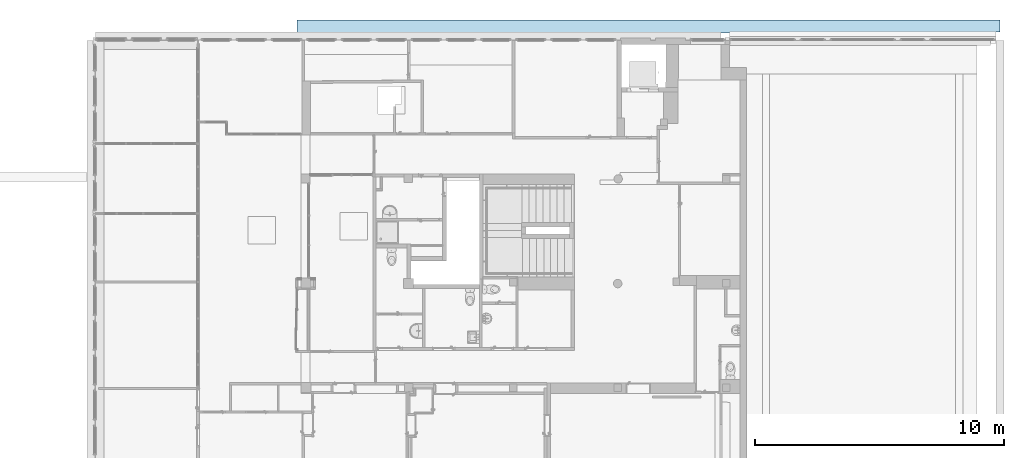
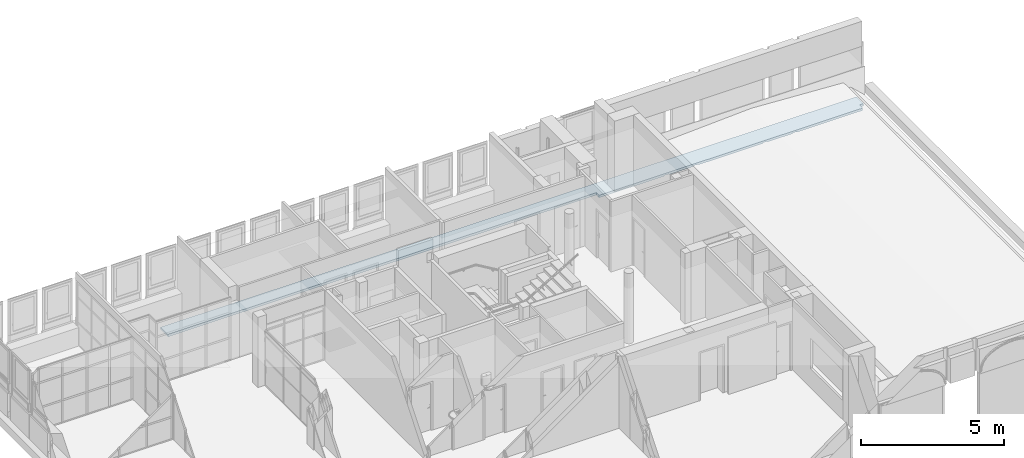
# One storey, part 53 of 97: 1 slab.
"""IFC4 building model written with IfcOpenShell, lengths in metres."""

from ifc_helpers import new_model, entity, si_unit, converted_unit, derived_unit, direction, frame, origin, place, context, subcontext, project, spatial, polygons, material, layer, layer_set, type_object, element, save


model = new_model("IFC4")

# Units and contexts
model_context = context("Model", 3, precision=1e-05, world=origin(), true_north=direction((6.12303176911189e-17, 1.0)))
body_context = subcontext(model_context, "Body", "Model", "MODEL_VIEW")
ifc_project = project(units=[si_unit("LENGTHUNIT", "METRE"), si_unit("AREAUNIT", "SQUARE_METRE"), si_unit("VOLUMEUNIT", "CUBIC_METRE"), converted_unit("PLANEANGLEUNIT", "DEGREE", entity("IfcRatioMeasure", 0.0174532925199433), si_unit("PLANEANGLEUNIT", "RADIAN"), dimensions=[0, 0, 0, 0, 0, 0, 0]), si_unit("MASSUNIT", "GRAM", prefix="KILO"), derived_unit("MASSDENSITYUNIT", [(si_unit("MASSUNIT", "GRAM", prefix="KILO"), 1), (si_unit("LENGTHUNIT", "METRE"), -3)]), derived_unit("MOMENTOFINERTIAUNIT", [(si_unit("LENGTHUNIT", "METRE"), 4)]), si_unit("TIMEUNIT", "SECOND"), si_unit("FREQUENCYUNIT", "HERTZ"), si_unit("THERMODYNAMICTEMPERATUREUNIT", "DEGREE_CELSIUS"), derived_unit("THERMALTRANSMITTANCEUNIT", [(si_unit("MASSUNIT", "GRAM", prefix="KILO"), 1), (si_unit("THERMODYNAMICTEMPERATUREUNIT", "KELVIN"), -1), (si_unit("TIMEUNIT", "SECOND"), -3)]), derived_unit("VOLUMETRICFLOWRATEUNIT", [(si_unit("LENGTHUNIT", "METRE"), 3), (si_unit("TIMEUNIT", "SECOND"), -1)]), si_unit("ELECTRICCURRENTUNIT", "AMPERE"), si_unit("ELECTRICVOLTAGEUNIT", "VOLT"), si_unit("POWERUNIT", "WATT"), si_unit("FORCEUNIT", "NEWTON", prefix="KILO"), si_unit("ILLUMINANCEUNIT", "LUX"), si_unit("LUMINOUSFLUXUNIT", "LUMEN"), si_unit("LUMINOUSINTENSITYUNIT", "CANDELA"), derived_unit("USERDEFINED", [(si_unit("MASSUNIT", "GRAM", prefix="KILO"), -1), (si_unit("LENGTHUNIT", "METRE"), -2), (si_unit("TIMEUNIT", "SECOND"), 3), (si_unit("LUMINOUSFLUXUNIT", "LUMEN"), 1)]), derived_unit("LINEARVELOCITYUNIT", [(si_unit("LENGTHUNIT", "METRE"), 1), (si_unit("TIMEUNIT", "SECOND"), -1)]), si_unit("PRESSUREUNIT", "PASCAL"), derived_unit("USERDEFINED", [(si_unit("LENGTHUNIT", "METRE"), -2), (si_unit("MASSUNIT", "GRAM", prefix="KILO"), 1), (si_unit("TIMEUNIT", "SECOND"), -2)]), derived_unit("LINEARFORCEUNIT", [(si_unit("MASSUNIT", "GRAM", prefix="KILO"), 1), (si_unit("LENGTHUNIT", "METRE"), 1), (si_unit("TIMEUNIT", "SECOND"), -2), (si_unit("LENGTHUNIT", "METRE"), -1)]), derived_unit("PLANARFORCEUNIT", [(si_unit("MASSUNIT", "GRAM", prefix="KILO"), 1), (si_unit("LENGTHUNIT", "METRE"), 1), (si_unit("TIMEUNIT", "SECOND"), -2), (si_unit("LENGTHUNIT", "METRE"), -2)])], contexts=[model_context])

# Site, building, storey
site_placement = place(None, origin())
site = spatial("IfcSite", under=ifc_project, at=site_placement, Name="Default", CompositionType="ELEMENT")
building_placement = place(site_placement, origin())
building = spatial("IfcBuilding", under=site, at=building_placement, Name="HOTEL CONSULAIRE BOULOGNE SUR MER", CompositionType="ELEMENT")
storey_placement = place(building_placement, frame((0.0, 0.0, 3.62152697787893)))
storey = spatial("IfcBuildingStorey", under=building, at=storey_placement, Name="Niveau 1", CompositionType="ELEMENT", Elevation=3.62152697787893)

# Slab
ifc_material = material(Name="Béton, coulé sur place", Category="Béton")
ifc_layer = layer(ifc_material, 0.1, Name="Béton, coulé sur place", Category="Béton")
ifc_layer_set = layer_set([ifc_layer], Name="Sol:béton 100")
slab_type = type_object("IfcSlabType", Name="Sol:béton 100", PredefinedType="FLOOR", material=ifc_layer_set)
slab_placement = place(storey_placement, origin())
element("IfcSlab", 1, at=slab_placement, inside=storey, type_object=slab_type, material=ifc_layer_set, Name="Sol:béton 100", ObjectType="Sol:béton 100", PredefinedType="FLOOR", context=body_context, shape_type="Tessellation", body=[
    polygons([(-5.6960162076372, -9.26461225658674, -1.4175269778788), (22.4986382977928, -9.26461225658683, -1.4175269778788), (22.4986382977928, -9.74463235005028, -1.4175269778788), (22.3370193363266, -9.74463235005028, -1.4175269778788), (22.3370193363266, -9.97401737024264, -1.4175269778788), (19.6849823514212, -9.97401737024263, -1.4175269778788), (19.6507300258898, -9.7456685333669, -1.4175269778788), (19.5284300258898, -9.7456685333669, -1.4175269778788), (19.4941777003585, -9.97401737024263, -1.4175269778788), (18.4864568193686, -9.97401737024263, -1.4175269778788), (18.4522044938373, -9.7456685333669, -1.4175269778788), (18.3299044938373, -9.7456685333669, -1.4175269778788), (18.2956521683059, -9.97401737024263, -1.4175269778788), (15.6829475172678, -9.97401737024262, -1.4175269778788), (15.6486951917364, -9.74566853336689, -1.4175269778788), (15.5263951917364, -9.74566853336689, -1.4175269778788), (15.492142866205, -9.97401737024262, -1.4175269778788), (14.4884389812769, -9.97401737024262, -1.4175269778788), (14.4541866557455, -9.74566853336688, -1.4175269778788), (14.3318866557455, -9.74566853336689, -1.4175269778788), (14.2976343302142, -9.97401737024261, -1.4175269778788), (11.6611975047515, -9.9740173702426, -1.4175269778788), (11.6611975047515, -9.78032416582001, -1.4175269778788), (11.6466382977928, -9.78032416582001, -1.4175269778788), (11.3066382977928, -9.78032416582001, -1.4175269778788), (-1.17098066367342, -9.78032416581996, -1.4175269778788), (-1.51098066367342, -9.78032416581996, -1.4175269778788), (-5.16398066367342, -9.78032416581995, -1.4175269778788), (-5.50398066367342, -9.78032416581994, -1.4175269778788), (-5.6960162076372, -9.78032416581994, -1.4175269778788), (22.4986382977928, -9.26461225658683, -1.3175269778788), (-5.6960162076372, -9.26461225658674, -1.3175269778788), (-5.6960162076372, -9.78032416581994, -1.3175269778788), (-5.50398066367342, -9.78032416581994, -1.3175269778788), (-5.16398066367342, -9.78032416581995, -1.3175269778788), (-1.51098066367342, -9.78032416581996, -1.3175269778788), (-1.17098066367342, -9.78032416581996, -1.3175269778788), (11.3066382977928, -9.78032416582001, -1.3175269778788), (11.6466382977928, -9.78032416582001, -1.3175269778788), (11.6611975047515, -9.78032416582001, -1.3175269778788), (11.6611975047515, -9.9740173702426, -1.3175269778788), (22.3370193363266, -9.97401737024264, -1.3175269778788), (22.3370193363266, -9.74463235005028, -1.3175269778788), (22.4986382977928, -9.74463235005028, -1.3175269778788), (22.3370193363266, -9.97401737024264, -1.39), (14.2976343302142, -9.97401737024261, -1.39), (14.4884389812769, -9.97401737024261, -1.39), (15.492142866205, -9.97401737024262, -1.39), (15.6829475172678, -9.97401737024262, -1.39), (18.2956521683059, -9.97401737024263, -1.39), (18.4864568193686, -9.97401737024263, -1.39), (19.4941777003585, -9.97401737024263, -1.39), (19.6849823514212, -9.97401737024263, -1.39), (14.3318866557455, -9.74566853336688, -1.39), (14.4541866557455, -9.74566853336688, -1.39), (15.5263951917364, -9.74566853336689, -1.39), (15.6486951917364, -9.74566853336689, -1.39), (18.3299044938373, -9.7456685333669, -1.39), (18.4522044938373, -9.7456685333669, -1.39), (19.5284300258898, -9.7456685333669, -1.39), (19.6507300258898, -9.7456685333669, -1.39)], [[[1, 2, 3, 4, 5, 6, 7, 8, 9, 10, 11, 12, 13, 14, 15, 16, 17, 18, 19, 20, 21, 22, 23, 24, 25, 26, 27, 28, 29, 30]], [[46, 54, 55, 47]], [[48, 56, 57, 49]], [[50, 58, 59, 51]], [[52, 60, 61, 53]], [[31, 32, 33, 34, 35, 36, 37, 38, 39, 40, 41, 42, 43, 44]], [[2, 1, 32, 31]], [[3, 2, 31, 44]], [[5, 4, 43, 42, 45]], [[4, 3, 44, 43]], [[9, 52, 53, 6, 5, 45, 42, 41, 22, 21, 46, 47, 18, 17, 48, 49, 14, 13, 50, 51, 10]], [[25, 24, 23, 40, 39, 38, 37, 36, 35, 34, 33, 30, 29, 28, 27, 26]], [[19, 55, 54, 20]], [[16, 15, 57, 56]], [[11, 59, 58, 12]], [[8, 7, 61, 60]], [[23, 22, 41, 40]], [[1, 30, 33, 32]], [[20, 54, 46, 21]], [[16, 56, 48, 17]], [[12, 58, 50, 13]], [[8, 60, 52, 9]], [[19, 18, 47, 55]], [[15, 14, 49, 57]], [[11, 10, 51, 59]], [[7, 6, 53, 61]]], closed=True),
])

save(model, "model.ifc")
